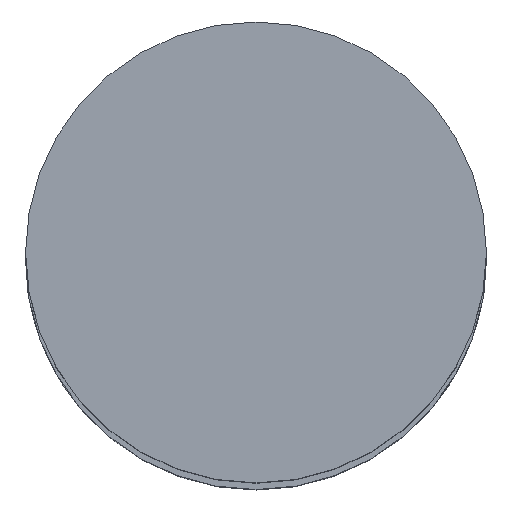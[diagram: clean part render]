
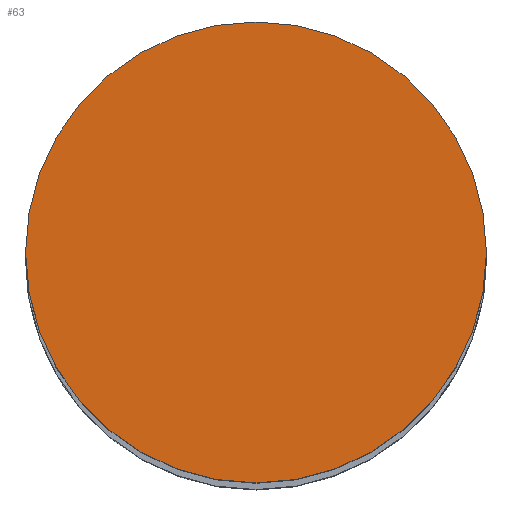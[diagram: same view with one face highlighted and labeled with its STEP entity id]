
A CAD part, top view. The second image highlights one B-rep face of the part: STEP entity #63.
In plain terms, the highlighted planar face has unit normal (0, 0, 1).
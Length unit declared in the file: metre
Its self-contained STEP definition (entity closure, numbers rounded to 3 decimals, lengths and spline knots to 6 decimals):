
#63=ADVANCED_FACE('56:4857',(#130),#131,.F.);
#130=FACE_OUTER_BOUND('',#209,.T.);
#131=PLANE('',#210);
#209=EDGE_LOOP('',(#300,#301));
#210=AXIS2_PLACEMENT_3D('',#302,#303,#304);
#300=ORIENTED_EDGE('',*,*,#433,.F.);
#301=ORIENTED_EDGE('',*,*,#454,.F.);
#302=CARTESIAN_POINT('',(-0.000092,0.000095,2.994));
#303=DIRECTION('',(0.0,0.0,-1.0));
#304=DIRECTION('',(1.0,0.0,0.0));
#433=EDGE_CURVE('27:1418',#505,#501,#507,.F.);
#454=EDGE_CURVE('',#501,#505,#544,.F.);
#501=VERTEX_POINT('',#607);
#505=VERTEX_POINT('',#612);
#507=CIRCLE('',#615,0.0155);
#544=CIRCLE('',#660,0.0155);
#607=CARTESIAN_POINT('',(0.015408,0.000095,2.994));
#612=CARTESIAN_POINT('',(-0.015592,0.000095,2.994));
#615=AXIS2_PLACEMENT_3D('',#736,#737,#738);
#660=AXIS2_PLACEMENT_3D('',#771,#772,#773);
#736=CARTESIAN_POINT('',(-0.000092,0.000095,2.994));
#737=DIRECTION('',(0.0,0.0,1.0));
#738=DIRECTION('',(1.0,0.0,0.0));
#771=CARTESIAN_POINT('',(-0.000092,0.000095,2.994));
#772=DIRECTION('',(0.0,0.0,1.0));
#773=DIRECTION('',(1.0,0.0,0.0));
